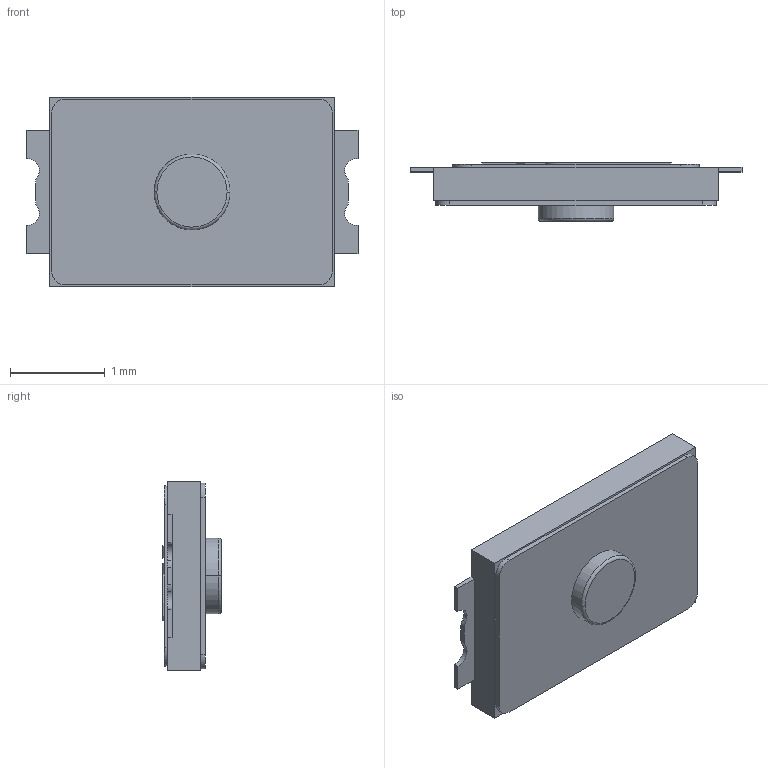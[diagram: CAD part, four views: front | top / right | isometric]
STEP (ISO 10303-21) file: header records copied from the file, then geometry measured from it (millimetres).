
FILE_DESCRIPTION((''),'2;1');
FILE_NAME('ASM0025_ASM','2024-01-07T',('WYH'),(''),'PRO/ENGINEER BY PARAMETRIC TECHNOLOGY CORPORATION, 2013040','PRO/ENGINEER BY PARAMETRIC TECHNOLOGY CORPORATION, 2013040','');
FILE_SCHEMA(('CONFIG_CONTROL_DESIGN'));
Length unit declared in the file: millimetre
Products named in the file (1): ASM0025_ASM
Bounding box: 3.5 x 0.62 x 2 mm (x, y, z)
Volume: 2.7 mm3; surface area: 18 mm2
Topology: 1 solids, 1 shells, 106 faces, 298 edges, 202 vertices
Faces by surface type: plane 76, cylinder 28, torus 2
Entity records: 3472 total; most frequent: CARTESIAN_POINT 606, ORIENTED_EDGE 596, DIRECTION 582, EDGE_CURVE 298, VECTOR 226, LINE 226, VERTEX_POINT 202, AXIS2_PLACEMENT_3D 178
